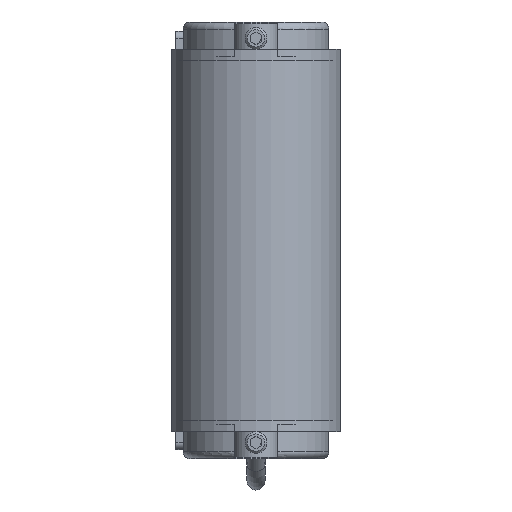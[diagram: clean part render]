
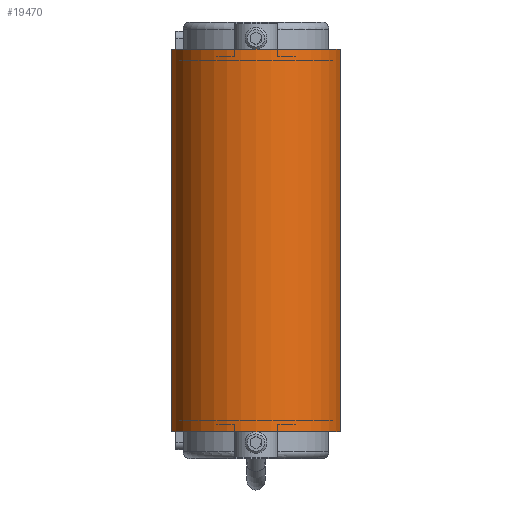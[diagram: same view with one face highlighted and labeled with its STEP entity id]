
A CAD part, front view. The second image highlights one B-rep face of the part: STEP entity #19470.
In plain terms, the highlighted cylindrical face has radius 23.3 mm (diameter 46.6 mm), a partial arc.
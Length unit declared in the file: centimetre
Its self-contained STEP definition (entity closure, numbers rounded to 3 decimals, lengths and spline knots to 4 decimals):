
#557=CYLINDRICAL_SURFACE('',#20820,2.33);
#1199=CIRCLE('',#20815,2.33);
#1202=CIRCLE('',#20821,2.33);
#2026=FACE_OUTER_BOUND('',#3085,.T.);
#3085=EDGE_LOOP('',(#13224,#13225,#13226,#13227));
#4425=LINE('',#28737,#5998);
#4426=LINE('',#28741,#5999);
#5998=VECTOR('',#23512,1.);
#5999=VECTOR('',#23517,1.);
#7743=VERTEX_POINT('',#28720);
#7744=VERTEX_POINT('',#28721);
#7749=VERTEX_POINT('',#28735);
#7750=VERTEX_POINT('',#28739);
#9869=EDGE_CURVE('',#7743,#7744,#1199,.T.);
#9877=EDGE_CURVE('',#7749,#7744,#4425,.T.);
#9878=EDGE_CURVE('',#7749,#7750,#1202,.T.);
#9879=EDGE_CURVE('',#7743,#7750,#4426,.T.);
#13224=ORIENTED_EDGE('',*,*,#9878,.T.);
#13225=ORIENTED_EDGE('',*,*,#9879,.F.);
#13226=ORIENTED_EDGE('',*,*,#9869,.T.);
#13227=ORIENTED_EDGE('',*,*,#9877,.F.);
#19470=ADVANCED_FACE('',(#2026),#557,.T.);
#20815=AXIS2_PLACEMENT_3D('',#28722,#23497,#23498);
#20820=AXIS2_PLACEMENT_3D('',#28738,#23513,#23514);
#20821=AXIS2_PLACEMENT_3D('',#28740,#23515,#23516);
#23497=DIRECTION('center_axis',(0.,0.,
-1.));
#23498=DIRECTION('ref_axis',(-1.,0.,0.));
#23512=DIRECTION('',(0.,0.,1.));
#23513=DIRECTION('center_axis',(0.,0.,
-1.));
#23514=DIRECTION('ref_axis',(-1.,0.,0.));
#23515=DIRECTION('center_axis',(0.,0.,
1.));
#23516=DIRECTION('ref_axis',(-1.,0.,0.));
#23517=DIRECTION('',(0.,0.,-1.));
#28720=CARTESIAN_POINT('',(2.33,-77.,5.25));
#28721=CARTESIAN_POINT('',(-2.33,-77.,5.25));
#28722=CARTESIAN_POINT('Origin',(0.,-77.,5.25));
#28735=CARTESIAN_POINT('',(-2.33,-77.,-5.25));
#28737=CARTESIAN_POINT('',(-2.33,-77.,0.));
#28738=CARTESIAN_POINT('Origin',(0.,-77.,0.));
#28739=CARTESIAN_POINT('',(2.33,-77.,-5.25));
#28740=CARTESIAN_POINT('Origin',(0.,-77.,-5.25));
#28741=CARTESIAN_POINT('',(2.33,-77.,0.));
